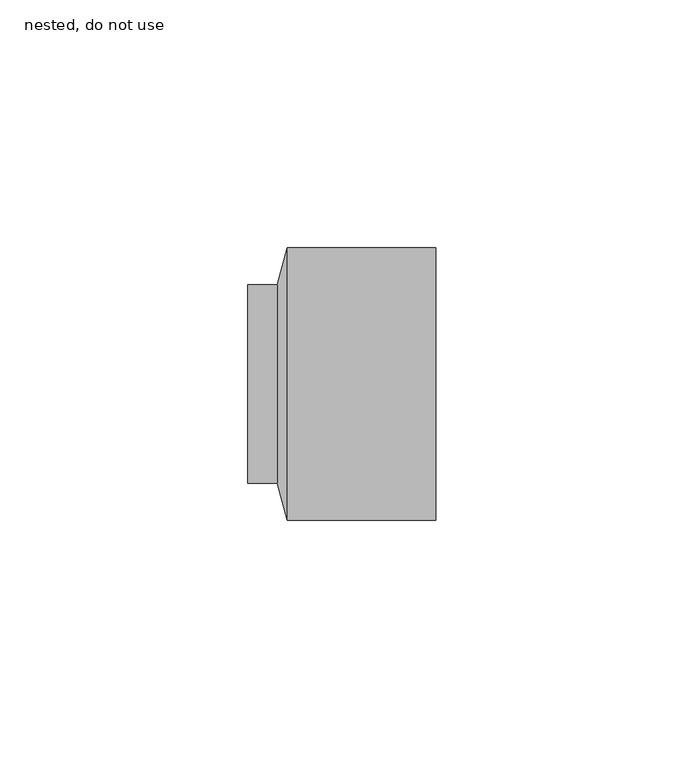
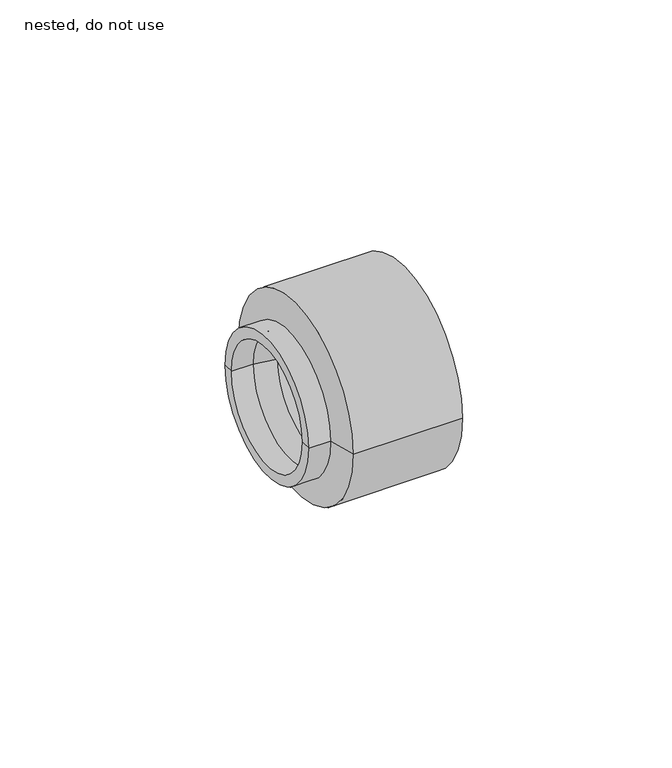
"""IFC4 building model written with IfcOpenShell, lengths in millimetres: pipe fitting geometry, ZZZ_do no use_PIF_HDPE female thread adapter -SH_Akatherm : nested, do not use."""

from ifc_helpers import new_model, si_unit, frame, origin, place, context, project, spatial, polyline, circle_curve, source, transform, mapped, element, save
from ifc_brep_helpers import plane_surface, cylinder_surface, revolved_surface, advanced_brep


def nested_do_not_use_41f74998(model_context):
    return source(origin(), model_context, "Body", "AdvancedBrep", [
        advanced_brep(
        [(-13.0, -17.0, 0.0), (-13.0, 17.0, 0.0), (-19.0, 17.0, 0.0), (-19.0, -17.0, 0.0), (-7.0, -15.875, 0.0), (-7.0, 15.875, 0.0), (19.0, -15.875, 0.0), (19.0, 15.875, 0.0), (19.0, -27.5, 0.0), (19.0, 27.5, 0.0), (-19.0, -20.0, 0.0), (-19.0, 20.0, 0.0), (-13.0, 20.0, 0.0), (-13.0, -20.0, 0.0), (-11.0, -27.5, 0.0), (-11.0, 27.5, 0.0)],
        [
            (0, 1, circle_curve(frame((-13.0, 0.0, 0.0), z_axis=(1.0, 0.0, 0.0), x_axis=(0.0, 1.0, 0.0)), 17.0)),
            (1, 2),
            (2, 3, circle_curve(frame((-19.0, 0.0, 0.0), z_axis=(-1.0, 0.0, 0.0), x_axis=(0.0, 1.0, 0.0)), 17.0)),
            (3, 0),
            (1, 0, circle_curve(frame((-13.0, 0.0, 0.0), z_axis=(1.0, 0.0, 0.0), x_axis=(0.0, 1.0, 0.0)), 17.0)),
            (3, 2, circle_curve(frame((-19.0, 0.0, 0.0), z_axis=(-1.0, 0.0, 0.0), x_axis=(0.0, 1.0, 0.0)), 17.0)),
            (4, 5, circle_curve(frame((-7.0, 0.0, 0.0), z_axis=(1.0, 0.0, 0.0), x_axis=(0.0, 1.0, 0.0)), 15.875)),
            (5, 1),
            (0, 4),
            (5, 4, circle_curve(frame((-7.0, 0.0, 0.0), z_axis=(1.0, 0.0, 0.0), x_axis=(0.0, 1.0, 0.0)), 15.875)),
            (6, 7, circle_curve(frame((19.0, 0.0, 0.0), z_axis=(1.0, 0.0, 0.0), x_axis=(0.0, 1.0, 0.0)), 15.875)),
            (7, 5),
            (4, 6),
            (7, 6, circle_curve(frame((19.0, 0.0, 0.0), z_axis=(1.0, 0.0, 0.0), x_axis=(0.0, 1.0, 0.0)), 15.875)),
            (8, 9, circle_curve(frame((19.0, 0.0, 0.0), z_axis=(1.0, 0.0, 0.0), x_axis=(0.0, 1.0, 0.0)), 27.5)),
            (9, 7),
            (6, 8),
            (9, 8, circle_curve(frame((19.0, 0.0, 0.0), z_axis=(1.0, 0.0, 0.0), x_axis=(0.0, 1.0, 0.0)), 27.5)),
            (10, 11, circle_curve(frame((-19.0, 0.0, 0.0), z_axis=(1.0, 0.0, 0.0), x_axis=(0.0, 1.0, 0.0)), 20.0)),
            (11, 12),
            (12, 13, circle_curve(frame((-13.0, 0.0, 0.0), z_axis=(-1.0, 0.0, 0.0), x_axis=(0.0, 1.0, 0.0)), 20.0)),
            (13, 10),
            (11, 10, circle_curve(frame((-19.0, 0.0, 0.0), z_axis=(1.0, 0.0, 0.0), x_axis=(0.0, 1.0, 0.0)), 20.0)),
            (13, 12, circle_curve(frame((-13.0, 0.0, 0.0), z_axis=(-1.0, 0.0, 0.0), x_axis=(0.0, 1.0, 0.0)), 20.0)),
            (2, 11),
            (10, 3),
            (14, 15, circle_curve(frame((-11.0, 0.0, 0.0), z_axis=(1.0, 0.0, 0.0), x_axis=(0.0, 1.0, 0.0)), 27.5)),
            (15, 9),
            (8, 14),
            (15, 14, circle_curve(frame((-11.0, 0.0, 0.0), z_axis=(1.0, 0.0, 0.0), x_axis=(0.0, 1.0, 0.0)), 27.5)),
            (12, 15),
            (14, 13),
        ],
        [
            revolved_surface(polyline([(-19.000000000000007, 17.0, 0.0), (-13.0, 17.0, 0.0)]), (47.5733983, 0.0, 0.0), (-1.0, 0.0, 0.0)),
            revolved_surface(polyline([(-13.0, 17.0, 0.0), (-7.0, 15.875, 0.0)]), (47.5733983, 0.0, 0.0), (-1.0, 0.0, 0.0)),
            revolved_surface(polyline([(-7.0, 15.875, 0.0), (19.0, 15.875, 0.0)]), (47.5733983, 0.0, 0.0), (-1.0, 0.0, 0.0)),
            plane_surface(frame((19.0, 0.0, 0.0), z_axis=(1.0, 0.0, 0.0), x_axis=(0.0, 1.0, 0.0))),
            cylinder_surface(frame((47.5733983, 0.0, 0.0), z_axis=(-1.0, 0.0, 0.0), x_axis=(0.0, 1.0, 0.0)), 20.0),
            plane_surface(frame((-19.0, 0.0, 0.0), z_axis=(-1.0, 0.0, 0.0), x_axis=(0.0, 1.0, 0.0))),
            cylinder_surface(frame((47.5733983, 0.0, 0.0), z_axis=(-1.0, 0.0, 0.0), x_axis=(0.0, 1.0, 0.0)), 27.5),
            revolved_surface(polyline([(-11.0, 27.5, 0.0), (-13.0, 20.0, 0.0)]), (47.5733983, 0.0, 0.0), (-1.0, 0.0, 0.0)),
        ],
        [
            (0, [[1, 2, 3, 4]]),
            (0, [[5, -4, 6, -2]]),
            (1, [[7, 8, -1, 9]]),
            (1, [[10, -9, -5, -8]]),
            (2, [[11, 12, -7, 13]]),
            (2, [[14, -13, -10, -12]]),
            (3, [[15, 16, -11, 17]]),
            (3, [[18, -17, -14, -16]]),
            (4, [[19, 20, 21, 22]]),
            (4, [[23, -22, 24, -20]]),
            (5, [[-3, 25, -19, 26]]),
            (5, [[-6, -26, -23, -25]]),
            (6, [[27, 28, -15, 29]]),
            (6, [[30, -29, -18, -28]]),
            (7, [[-21, 31, -27, 32]]),
            (7, [[-24, -32, -30, -31]]),
        ],
    ),
    ])


if __name__ == "__main__":
    model = new_model("IFC4")
    model_context = context("Model", 3, world=origin())
    ifc_project = project(units=[si_unit("LENGTHUNIT", "METRE", prefix="MILLI")], contexts=[model_context])
    site = spatial("IfcSite", under=ifc_project)
    building = spatial("IfcBuilding", under=site)
    placement = place(None, origin())
    nested_do_not_use_shape = nested_do_not_use_41f74998(model_context)
    element("IfcPipeFitting", 1, ObjectType="ZZZ_do no use_PIF_HDPE female thread adapter -SH_Akatherm : nested, do not use", at=placement, inside=building, context=model_context, shape_type="MappedRepresentation", body=[
        mapped(nested_do_not_use_shape, transform((0.0, 0.0, 0.0), x_axis=(1.0, 0.0, 0.0), y_axis=(0.0, 1.0, 0.0), z_axis=(0.0, 0.0, 1.0))),
    ])
    save(model, "model.ifc")
